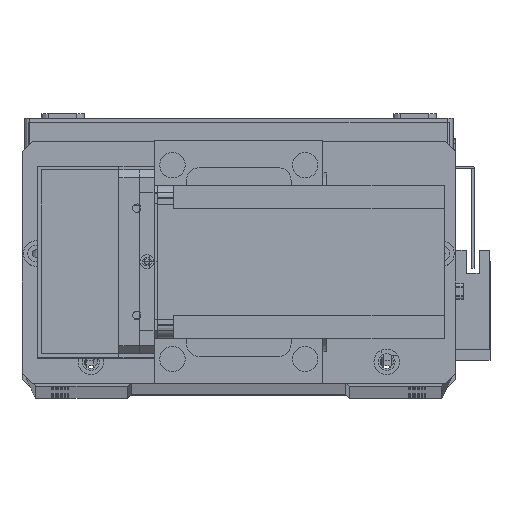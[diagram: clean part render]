
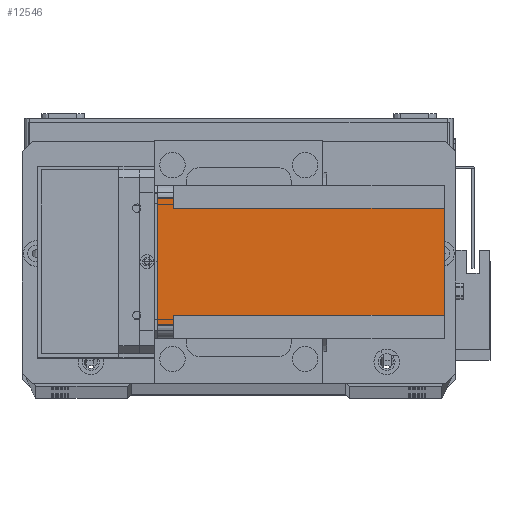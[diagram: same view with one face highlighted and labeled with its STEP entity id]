
A CAD part, top view. The second image highlights one B-rep face of the part: STEP entity #12546.
In plain terms, the highlighted planar face has unit normal (0, 0, 1) as drawn and (-1, 0, 0) by its records, which use the part's own axes.
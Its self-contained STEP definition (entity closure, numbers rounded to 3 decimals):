
#89 = AXIS2_PLACEMENT_3D ( 'NONE', #23336, #7512, #25964 ) ;
#260 = CARTESIAN_POINT ( 'NONE',  ( 0., 9., -112.5 ) ) ;
#307 = ORIENTED_EDGE ( 'NONE', *, *, #20726, .T. ) ;
#924 = LINE ( 'NONE', #17596, #27327 ) ;
#1483 = VERTEX_POINT ( 'NONE', #25757 ) ;
#2533 = VECTOR ( 'NONE', #5586, 1000. ) ;
#2755 = ORIENTED_EDGE ( 'NONE', *, *, #9781, .T. ) ;
#2906 = CARTESIAN_POINT ( 'NONE',  ( 0., 0., 0. ) ) ;
#2959 = CARTESIAN_POINT ( 'NONE',  ( 0., 60., -6.5 ) ) ;
#3000 = VERTEX_POINT ( 'NONE', #24517 ) ;
#3478 = ORIENTED_EDGE ( 'NONE', *, *, #5227, .T. ) ;
#3658 = CARTESIAN_POINT ( 'NONE',  ( 0., 5., -6.5 ) ) ;
#3798 = LINE ( 'NONE', #6799, #17785 ) ;
#4223 = VERTEX_POINT ( 'NONE', #8681 ) ;
#4292 = ORIENTED_EDGE ( 'NONE', *, *, #7334, .F. ) ;
#5227 = EDGE_CURVE ( 'NONE', #22427, #3000, #17501, .T. ) ;
#5586 = DIRECTION ( 'NONE',  ( 0., -1., 0. ) ) ;
#5905 = VERTEX_POINT ( 'NONE', #6588 ) ;
#6332 = VERTEX_POINT ( 'NONE', #3658 ) ;
#6588 = CARTESIAN_POINT ( 'NONE',  ( 0., 5., 0. ) ) ;
#6637 = DIRECTION ( 'NONE',  ( 0., 0., 1. ) ) ;
#6799 = CARTESIAN_POINT ( 'NONE',  ( 0., 5., -112.5 ) ) ;
#7302 = EDGE_CURVE ( 'NONE', #1483, #25106, #10749, .T. ) ;
#7334 = EDGE_CURVE ( 'NONE', #6332, #1483, #23169, .T. ) ;
#7512 = DIRECTION ( 'NONE',  ( -1., 0., 0. ) ) ;
#8681 = CARTESIAN_POINT ( 'NONE',  ( 0., 51., -112.5 ) ) ;
#9102 = VECTOR ( 'NONE', #16114, 1000. ) ;
#9378 = ORIENTED_EDGE ( 'NONE', *, *, #7302, .F. ) ;
#9662 = DIRECTION ( 'NONE',  ( 0., -1., 0. ) ) ;
#9781 = EDGE_CURVE ( 'NONE', #6332, #5905, #3798, .T. ) ;
#10543 = CARTESIAN_POINT ( 'NONE',  ( 0., 9., -112.5 ) ) ;
#10688 = ORIENTED_EDGE ( 'NONE', *, *, #10728, .F. ) ;
#10728 = EDGE_CURVE ( 'NONE', #22427, #5905, #25284, .T. ) ;
#10749 = LINE ( 'NONE', #260, #24838 ) ;
#10896 = DIRECTION ( 'NONE',  ( 0., 1., 0. ) ) ;
#11179 = LINE ( 'NONE', #17191, #30618 ) ;
#12075 = DIRECTION ( 'NONE',  ( 0., 0., 1. ) ) ;
#12546 = ADVANCED_FACE ( 'NONE', ( #26789 ), #25737, .T. ) ;
#13252 = VERTEX_POINT ( 'NONE', #31898 ) ;
#16114 = DIRECTION ( 'NONE',  ( 0., 1., 0. ) ) ;
#17191 = CARTESIAN_POINT ( 'NONE',  ( 0., 51., -112.5 ) ) ;
#17501 = LINE ( 'NONE', #22205, #30735 ) ;
#17596 = CARTESIAN_POINT ( 'NONE',  ( 0., 0., -112.5 ) ) ;
#17785 = VECTOR ( 'NONE', #12075, 1000. ) ;
#17881 = VECTOR ( 'NONE', #10896, 1000. ) ;
#18650 = DIRECTION ( 'NONE',  ( 0., 0., -1. ) ) ;
#18696 = LINE ( 'NONE', #2959, #17881 ) ;
#18758 = CARTESIAN_POINT ( 'NONE',  ( 0., 0., -6.5 ) ) ;
#19281 = EDGE_CURVE ( 'NONE', #13252, #3000, #18696, .T. ) ;
#20726 = EDGE_CURVE ( 'NONE', #4223, #25106, #924, .T. ) ;
#21795 = EDGE_LOOP ( 'NONE', ( #4292, #2755, #10688, #3478, #33576, #22614, #307, #9378 ) ) ;
#22205 = CARTESIAN_POINT ( 'NONE',  ( 0., 55., -112.5 ) ) ;
#22427 = VERTEX_POINT ( 'NONE', #29600 ) ;
#22614 = ORIENTED_EDGE ( 'NONE', *, *, #27112, .F. ) ;
#23169 = LINE ( 'NONE', #18758, #9102 ) ;
#23336 = CARTESIAN_POINT ( 'NONE',  ( 0., 0., -112.5 ) ) ;
#24517 = CARTESIAN_POINT ( 'NONE',  ( 0., 55., -6.5 ) ) ;
#24838 = VECTOR ( 'NONE', #18650, 1000. ) ;
#25106 = VERTEX_POINT ( 'NONE', #10543 ) ;
#25284 = LINE ( 'NONE', #2906, #2533 ) ;
#25737 = PLANE ( 'NONE',  #89 ) ;
#25757 = CARTESIAN_POINT ( 'NONE',  ( 0., 9., -6.5 ) ) ;
#25964 = DIRECTION ( 'NONE',  ( 0., -1., 0. ) ) ;
#26789 = FACE_OUTER_BOUND ( 'NONE', #21795, .T. ) ;
#27112 = EDGE_CURVE ( 'NONE', #4223, #13252, #11179, .T. ) ;
#27327 = VECTOR ( 'NONE', #9662, 1000. ) ;
#29600 = CARTESIAN_POINT ( 'NONE',  ( 0., 55., 0. ) ) ;
#30150 = DIRECTION ( 'NONE',  ( 0., 0., -1. ) ) ;
#30618 = VECTOR ( 'NONE', #6637, 1000. ) ;
#30735 = VECTOR ( 'NONE', #30150, 1000. ) ;
#31898 = CARTESIAN_POINT ( 'NONE',  ( 0., 51., -6.5 ) ) ;
#33576 = ORIENTED_EDGE ( 'NONE', *, *, #19281, .F. ) ;
